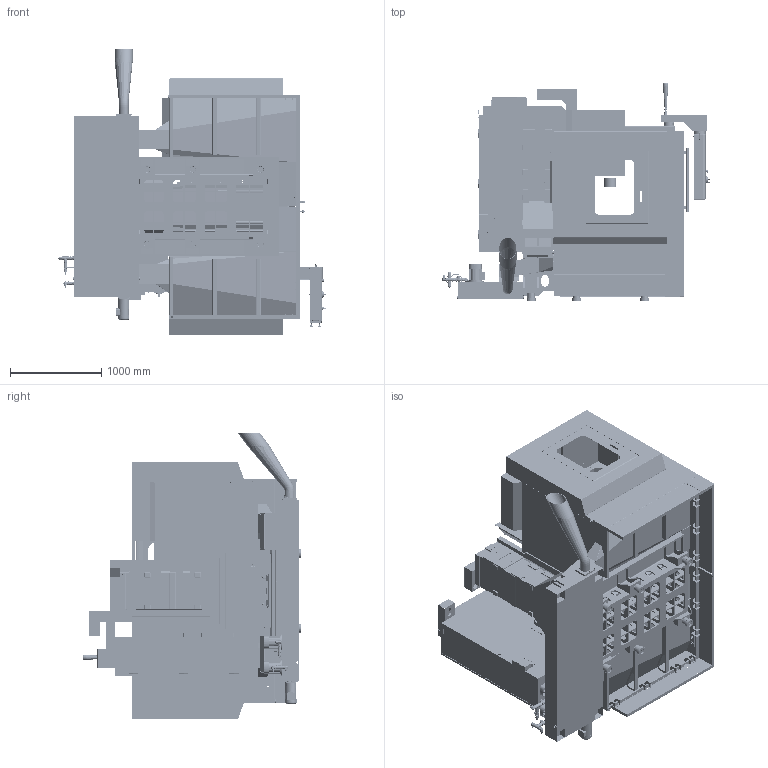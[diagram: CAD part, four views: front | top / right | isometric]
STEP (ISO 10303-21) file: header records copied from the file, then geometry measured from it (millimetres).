
FILE_DESCRIPTION (( 'STEP AP203' ), '1' );
FILE_NAME ('31502.STEP', '2020-04-21T15:43:53', ( '' ), ( '' ), 'SwSTEP 2.0', 'SolidWorks 2019', '' );
FILE_SCHEMA (( 'CONFIG_CONTROL_DESIGN' ));
Products named in the file (1): 31502
Bounding box: 2938.07 x 2396.01 x 3145.76 mm (x, y, z)
Surface area: 83189140.2 mm2 (no closed solid volume)
Topology: 0 solids, 5859 shells, 16990 faces, 81369 edges, 68700 vertices
Faces by surface type: plane 9752, cylinder 4038, bspline 2286, cone 567, torus 309, sphere 38
Entity records: 938093 total; most frequent: CARTESIAN_POINT 325105, DIRECTION 117223, ORIENTED_EDGE 100491, EDGE_CURVE 81194, VERTEX_POINT 68696, LINE 54279, VECTOR 54279, AXIS2_PLACEMENT_3D 31472
